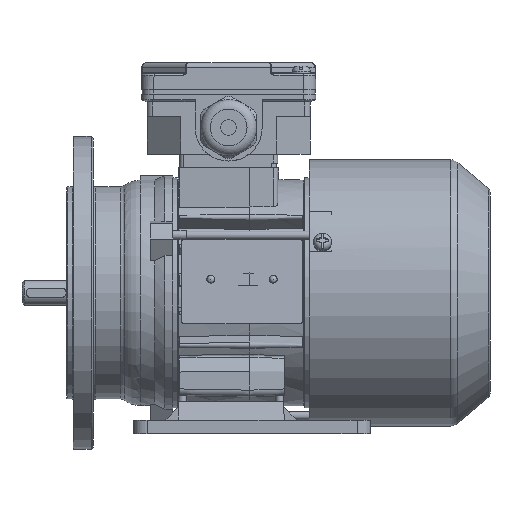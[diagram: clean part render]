
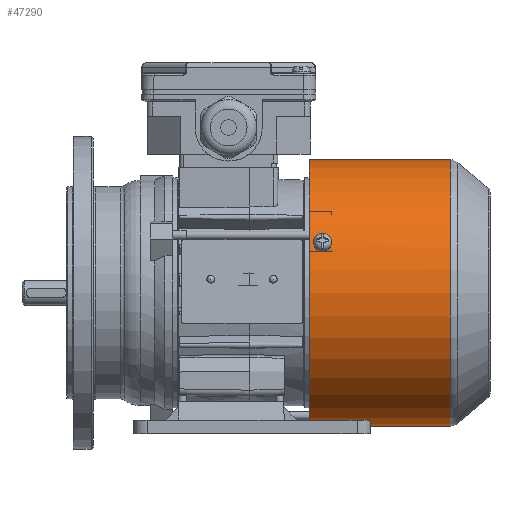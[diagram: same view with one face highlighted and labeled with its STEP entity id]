
A CAD part, front view. The second image highlights one B-rep face of the part: STEP entity #47290.
In plain terms, the highlighted cylindrical face has radius 59.6 mm (diameter 119.2 mm), a full revolution.
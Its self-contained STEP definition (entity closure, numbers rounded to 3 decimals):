
#960=B_SPLINE_CURVE_WITH_KNOTS('',3,(#70353,#70354,#70355,#70356,#70357,
#70358,#70359),.UNSPECIFIED.,.F.,.F.,(4,1,1,1,4),(0.,0.002,
0.004,0.006,0.008),
 .UNSPECIFIED.);
#962=B_SPLINE_CURVE_WITH_KNOTS('',3,(#70377,#70378,#70379,#70380,#70381,
#70382,#70383),.UNSPECIFIED.,.F.,.F.,(4,1,1,1,4),(0.,
0.002,0.004,0.006,0.008),
 .UNSPECIFIED.);
#964=B_SPLINE_CURVE_WITH_KNOTS('',3,(#70404,#70405,#70406,#70407,#70408,
#70409,#70410),.UNSPECIFIED.,.F.,.F.,(4,1,1,1,4),(0.,0.002,
0.004,0.006,0.008),
 .UNSPECIFIED.);
#966=B_SPLINE_CURVE_WITH_KNOTS('',3,(#70428,#70429,#70430,#70431,#70432,
#70433,#70434),.UNSPECIFIED.,.F.,.F.,(4,1,1,1,4),(0.,0.002,
0.004,0.006,0.008),
 .UNSPECIFIED.);
#967=B_SPLINE_CURVE_WITH_KNOTS('',3,(#70440,#70441,#70442,#70443,#70444,
#70445,#70446),.UNSPECIFIED.,.F.,.F.,(4,1,1,1,4),(0.,
0.002,0.004,0.006,0.007),
 .UNSPECIFIED.);
#968=B_SPLINE_CURVE_WITH_KNOTS('',3,(#70449,#70450,#70451,#70452,#70453,
#70454,#70455),.UNSPECIFIED.,.F.,.F.,(4,1,1,1,4),(0.,
0.002,0.004,0.006,0.007),
 .UNSPECIFIED.);
#8011=CYLINDRICAL_SURFACE('',#50345,59.6);
#15059=ORIENTED_EDGE('',*,*,#21762,.T.);
#15060=ORIENTED_EDGE('',*,*,#21759,.T.);
#15061=ORIENTED_EDGE('',*,*,#21756,.T.);
#15062=ORIENTED_EDGE('',*,*,#21764,.T.);
#15063=ORIENTED_EDGE('',*,*,#21778,.F.);
#15064=ORIENTED_EDGE('',*,*,#21779,.F.);
#15065=ORIENTED_EDGE('',*,*,#21775,.T.);
#15066=ORIENTED_EDGE('',*,*,#21772,.T.);
#15067=ORIENTED_EDGE('',*,*,#21769,.T.);
#15068=ORIENTED_EDGE('',*,*,#21777,.T.);
#15069=ORIENTED_EDGE('',*,*,#20480,.F.);
#15070=ORIENTED_EDGE('',*,*,#21765,.T.);
#20480=EDGE_CURVE('',#24792,#24792,#27294,.T.);
#21756=EDGE_CURVE('',#25651,#25654,#960,.T.);
#21759=EDGE_CURVE('',#25655,#25651,#27726,.F.);
#21762=EDGE_CURVE('',#25657,#25655,#962,.T.);
#21764=EDGE_CURVE('',#25654,#25657,#27728,.F.);
#21765=EDGE_CURVE('',#25659,#25659,#27729,.F.);
#21769=EDGE_CURVE('',#25660,#25663,#964,.T.);
#21772=EDGE_CURVE('',#25664,#25660,#27731,.F.);
#21775=EDGE_CURVE('',#25666,#25664,#966,.T.);
#21777=EDGE_CURVE('',#25663,#25666,#27733,.F.);
#21778=EDGE_CURVE('',#25668,#25669,#967,.T.);
#21779=EDGE_CURVE('',#25669,#25668,#968,.T.);
#24792=VERTEX_POINT('',#67678);
#25651=VERTEX_POINT('',#70341);
#25654=VERTEX_POINT('',#70352);
#25655=VERTEX_POINT('',#70362);
#25657=VERTEX_POINT('',#70368);
#25659=VERTEX_POINT('',#70389);
#25660=VERTEX_POINT('',#70392);
#25663=VERTEX_POINT('',#70403);
#25664=VERTEX_POINT('',#70413);
#25666=VERTEX_POINT('',#70419);
#25668=VERTEX_POINT('',#70447);
#25669=VERTEX_POINT('',#70448);
#27294=CIRCLE('',#49445,59.6);
#27726=CIRCLE('',#50329,59.6);
#27728=CIRCLE('',#50333,59.6);
#27729=CIRCLE('',#50335,59.6);
#27731=CIRCLE('',#50339,59.6);
#27733=CIRCLE('',#50344,59.6);
#29653=EDGE_LOOP('',(#15059,#15060,#15061,#15062));
#29654=EDGE_LOOP('',(#15063,#15064));
#29655=EDGE_LOOP('',(#15065,#15066,#15067,#15068));
#29656=EDGE_LOOP('',(#15069));
#29657=EDGE_LOOP('',(#15070));
#31931=FACE_BOUND('',#29653,.T.);
#31932=FACE_BOUND('',#29654,.T.);
#31933=FACE_BOUND('',#29655,.T.);
#31934=FACE_BOUND('',#29656,.T.);
#31935=FACE_BOUND('',#29657,.T.);
#47290=ADVANCED_FACE('',(#31931,#31932,#31933,#31934,#31935),#8011,.T.);
#49445=AXIS2_PLACEMENT_3D('',#67677,#55546,#55547);
#50329=AXIS2_PLACEMENT_3D('',#70365,#58139,#58140);
#50333=AXIS2_PLACEMENT_3D('',#70386,#58148,#58149);
#50335=AXIS2_PLACEMENT_3D('',#70388,#58152,#58153);
#50339=AXIS2_PLACEMENT_3D('',#70416,#58163,#58164);
#50344=AXIS2_PLACEMENT_3D('',#70438,#58174,#58175);
#50345=AXIS2_PLACEMENT_3D('',#70439,#58176,#58177);
#55546=DIRECTION('',(-1.,0.,0.));
#55547=DIRECTION('',(0.,0.,1.));
#58139=DIRECTION('',(-1.,0.,0.));
#58140=DIRECTION('',(0.,0.866,-0.5));
#58148=DIRECTION('',(1.,0.,0.));
#58149=DIRECTION('',(0.,-0.866,0.5));
#58152=DIRECTION('',(1.,0.,0.));
#58153=DIRECTION('',(0.,0.,-1.));
#58163=DIRECTION('',(-1.,0.,0.));
#58164=DIRECTION('',(0.,0.,1.));
#58174=DIRECTION('',(1.,0.,0.));
#58175=DIRECTION('',(0.,0.,-1.));
#58176=DIRECTION('',(-1.,0.,0.));
#58177=DIRECTION('',(0.,0.,1.));
#67677=CARTESIAN_POINT('',(26.5,0.,0.));
#67678=CARTESIAN_POINT('',(26.5,0.,59.6));
#70341=CARTESIAN_POINT('',(35.,46.437,37.36));
#70352=CARTESIAN_POINT('',(30.,46.437,37.36));
#70353=CARTESIAN_POINT('',(35.,46.437,37.36));
#70354=CARTESIAN_POINT('',(35.,46.023,37.874));
#70355=CARTESIAN_POINT('',(34.458,45.191,38.867));
#70356=CARTESIAN_POINT('',(32.502,44.648,39.479));
#70357=CARTESIAN_POINT('',(30.542,45.19,38.869));
#70358=CARTESIAN_POINT('',(30.,46.023,37.874));
#70359=CARTESIAN_POINT('',(30.,46.437,37.36));
#70362=CARTESIAN_POINT('',(35.,47.484,36.02));
#70365=CARTESIAN_POINT('',(35.,0.,0.));
#70368=CARTESIAN_POINT('',(30.,47.484,36.02));
#70377=CARTESIAN_POINT('',(30.,47.484,36.02));
#70378=CARTESIAN_POINT('',(30.,47.883,35.493));
#70379=CARTESIAN_POINT('',(30.542,48.645,34.446));
#70380=CARTESIAN_POINT('',(32.498,49.108,33.771));
#70381=CARTESIAN_POINT('',(34.458,48.646,34.444));
#70382=CARTESIAN_POINT('',(35.,47.883,35.493));
#70383=CARTESIAN_POINT('',(35.,47.484,36.02));
#70386=CARTESIAN_POINT('',(30.,0.,0.));
#70388=CARTESIAN_POINT('',(89.809,0.,0.));
#70389=CARTESIAN_POINT('',(89.809,0.,-59.6));
#70392=CARTESIAN_POINT('',(35.,-55.573,21.536));
#70403=CARTESIAN_POINT('',(30.,-55.573,21.536));
#70404=CARTESIAN_POINT('',(35.,-55.573,21.536));
#70405=CARTESIAN_POINT('',(35.,-55.812,20.92));
#70406=CARTESIAN_POINT('',(34.458,-56.255,19.703));
#70407=CARTESIAN_POINT('',(32.502,-56.514,18.927));
#70408=CARTESIAN_POINT('',(30.542,-56.256,19.701));
#70409=CARTESIAN_POINT('',(30.,-55.812,20.92));
#70410=CARTESIAN_POINT('',(30.,-55.573,21.536));
#70413=CARTESIAN_POINT('',(35.,-54.936,23.112));
#70416=CARTESIAN_POINT('',(35.,0.,0.));
#70419=CARTESIAN_POINT('',(30.,-54.936,23.112));
#70428=CARTESIAN_POINT('',(30.,-54.936,23.112));
#70429=CARTESIAN_POINT('',(30.,-54.68,23.721));
#70430=CARTESIAN_POINT('',(30.542,-54.154,24.905));
#70431=CARTESIAN_POINT('',(32.498,-53.8,25.643));
#70432=CARTESIAN_POINT('',(34.458,-54.153,24.907));
#70433=CARTESIAN_POINT('',(35.,-54.68,23.721));
#70434=CARTESIAN_POINT('',(35.,-54.936,23.112));
#70438=CARTESIAN_POINT('',(30.,0.,0.));
#70439=CARTESIAN_POINT('',(-33.5,0.,0.));
#70440=CARTESIAN_POINT('',(35.,8.295,-59.02));
#70441=CARTESIAN_POINT('',(34.937,7.681,-59.106));
#70442=CARTESIAN_POINT('',(34.356,6.499,-59.249));
#70443=CARTESIAN_POINT('',(32.502,5.777,-59.318));
#70444=CARTESIAN_POINT('',(30.649,6.493,-59.25));
#70445=CARTESIAN_POINT('',(30.063,7.681,-59.106));
#70446=CARTESIAN_POINT('',(30.,8.295,-59.02));
#70447=CARTESIAN_POINT('',(35.,8.295,-59.02));
#70448=CARTESIAN_POINT('',(30.,8.295,-59.02));
#70449=CARTESIAN_POINT('',(30.,8.295,-59.02));
#70450=CARTESIAN_POINT('',(30.063,8.908,-58.934));
#70451=CARTESIAN_POINT('',(30.644,10.084,-58.746));
#70452=CARTESIAN_POINT('',(32.498,10.797,-58.613));
#70453=CARTESIAN_POINT('',(34.351,10.09,-58.745));
#70454=CARTESIAN_POINT('',(34.937,8.908,-58.934));
#70455=CARTESIAN_POINT('',(35.,8.295,-59.02));
